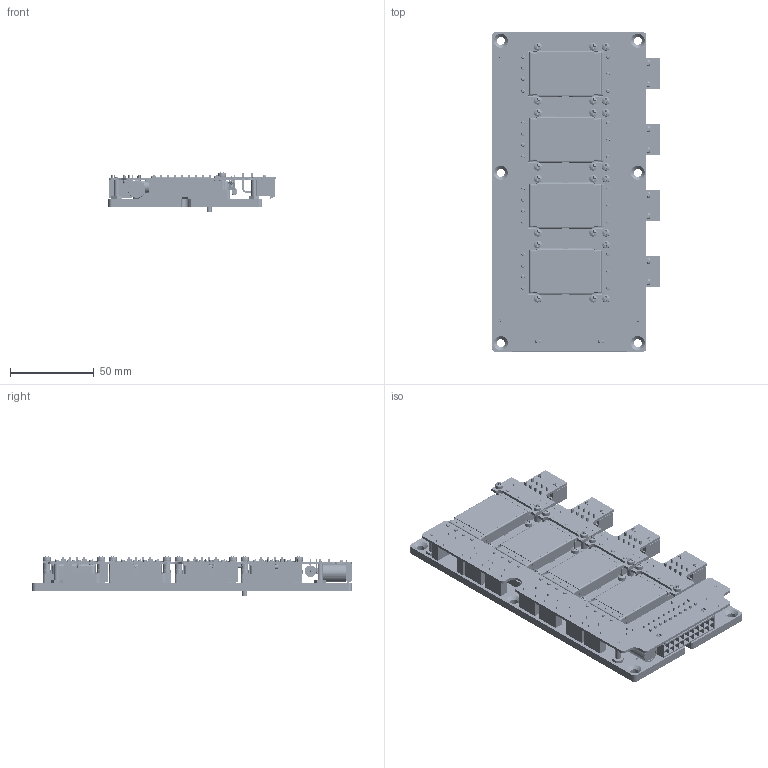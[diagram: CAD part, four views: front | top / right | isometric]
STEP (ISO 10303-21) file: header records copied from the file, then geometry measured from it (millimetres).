
FILE_DESCRIPTION (( 'STEP AP214' ), '1' );
FILE_NAME ('VA-F-PLUG-3OUT.STEP', '2011-02-16T18:04:43', ( 'Vicor Employee' ), ( 'Vicor Corporation' ), 'SwSTEP 2.0', 'SolidWorks 2011', '' );
FILE_SCHEMA (( 'AUTOMOTIVE_DESIGN' ));
Length unit declared in the file: inch
Products named in the file (1): VA-F-PLUG-3OUT
Bounding box: 100.3 x 191.57 x 23.49 mm (x, y, z)
Volume: 147931.2 mm3; surface area: 133627.3 mm2
Topology: 1 solids, 1 shells, 7406 faces, 19774 edges, 12483 vertices
Faces by surface type: plane 3930, cylinder 2422, bspline 348, cone 328, torus 250, sphere 128
Entity records: 375833 total; most frequent: CARTESIAN_POINT 99399, ORIENTED_EDGE 39196, DIRECTION 35874, EDGE_CURVE 19598, VERTEX_POINT 12483, AXIS2_PLACEMENT_3D 11967, VECTOR 11940, LINE 11940
